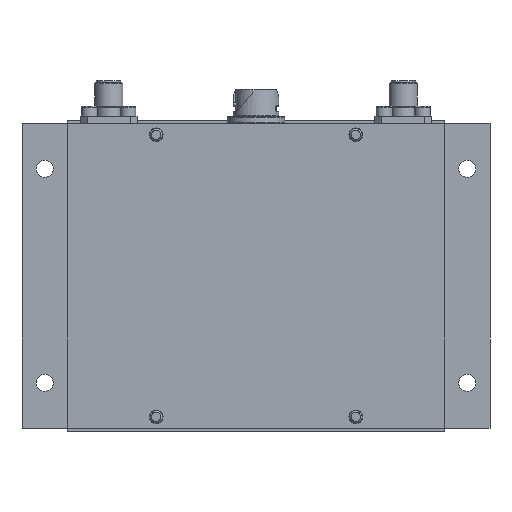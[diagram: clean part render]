
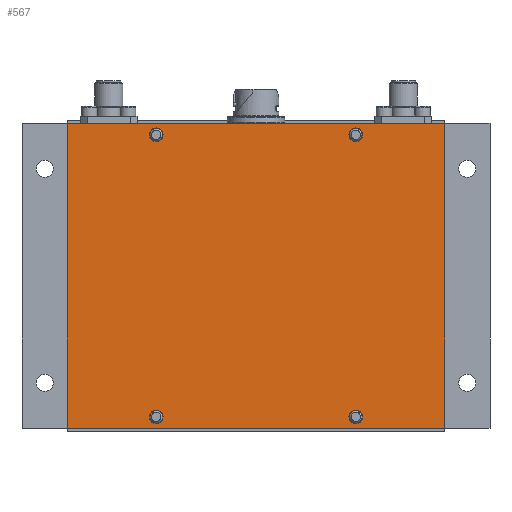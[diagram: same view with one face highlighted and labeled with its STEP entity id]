
A CAD part, front view. The second image highlights one B-rep face of the part: STEP entity #567.
In plain terms, the highlighted planar face has unit normal (0, -1, 0).
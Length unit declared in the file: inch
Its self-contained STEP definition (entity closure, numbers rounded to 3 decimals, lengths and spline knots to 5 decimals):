
#280=CARTESIAN_POINT('',(0.82,0.0,1.245));
#281=VERTEX_POINT('',#280);
#282=CARTESIAN_POINT('',(0.88,0.0,1.245));
#283=DIRECTION('',(0.0,1.0,0.0));
#284=DIRECTION('',(1.0,0.0,0.0));
#285=AXIS2_PLACEMENT_3D('',#282,#283,#284);
#286=CIRCLE('',#285,0.06);
#287=EDGE_CURVE('',#281,#281,#286,.T.);
#308=CARTESIAN_POINT('',(-0.94,0.0,-1.245));
#309=VERTEX_POINT('',#308);
#310=CARTESIAN_POINT('',(-0.88,0.0,-1.245));
#311=DIRECTION('',(0.0,1.0,0.0));
#312=DIRECTION('',(1.0,0.0,0.0));
#313=AXIS2_PLACEMENT_3D('',#310,#311,#312);
#314=CIRCLE('',#313,0.06);
#315=EDGE_CURVE('',#309,#309,#314,.T.);
#336=CARTESIAN_POINT('',(0.82,0.0,-1.245));
#337=VERTEX_POINT('',#336);
#338=CARTESIAN_POINT('',(0.88,0.0,-1.245));
#339=DIRECTION('',(0.0,1.0,0.0));
#340=DIRECTION('',(1.0,0.0,0.0));
#341=AXIS2_PLACEMENT_3D('',#338,#339,#340);
#342=CIRCLE('',#341,0.06);
#343=EDGE_CURVE('',#337,#337,#342,.T.);
#364=CARTESIAN_POINT('',(-0.94,0.0,1.245));
#365=VERTEX_POINT('',#364);
#366=CARTESIAN_POINT('',(-0.88,0.0,1.245));
#367=DIRECTION('',(0.0,1.0,0.0));
#368=DIRECTION('',(1.0,0.0,0.0));
#369=AXIS2_PLACEMENT_3D('',#366,#367,#368);
#370=CIRCLE('',#369,0.06);
#371=EDGE_CURVE('',#365,#365,#370,.T.);
#392=CARTESIAN_POINT('',(-1.665,0.0,1.345));
#393=VERTEX_POINT('',#392);
#394=CARTESIAN_POINT('',(-1.665,0.0,-1.345));
#395=VERTEX_POINT('',#394);
#396=CARTESIAN_POINT('',(-1.665,0.0,1.345));
#397=DIRECTION('',(0.0,0.0,-1.0));
#398=VECTOR('',#397,2.69);
#399=LINE('',#396,#398);
#400=EDGE_CURVE('',#393,#395,#399,.T.);
#432=CARTESIAN_POINT('',(1.665,0.0,-1.345));
#433=VERTEX_POINT('',#432);
#434=CARTESIAN_POINT('',(-1.665,0.0,-1.345));
#435=DIRECTION('',(1.0,0.0,0.0));
#436=VECTOR('',#435,3.33);
#437=LINE('',#434,#436);
#438=EDGE_CURVE('',#395,#433,#437,.T.);
#463=CARTESIAN_POINT('',(1.665,0.0,1.345));
#464=VERTEX_POINT('',#463);
#465=CARTESIAN_POINT('',(1.665,0.0,-1.345));
#466=DIRECTION('',(0.0,0.0,1.0));
#467=VECTOR('',#466,2.69);
#468=LINE('',#465,#467);
#469=EDGE_CURVE('',#433,#464,#468,.T.);
#494=CARTESIAN_POINT('',(1.665,0.0,1.345));
#495=DIRECTION('',(-1.0,0.0,0.0));
#496=VECTOR('',#495,3.33);
#497=LINE('',#494,#496);
#498=EDGE_CURVE('',#464,#393,#497,.T.);
#544=CARTESIAN_POINT('',(0.0,0.0,0.0));
#545=DIRECTION('',(0.0,1.0,0.0));
#546=DIRECTION('',(0.0,0.0,1.0));
#547=AXIS2_PLACEMENT_3D('',#544,#545,#546);
#548=PLANE('',#547);
#549=ORIENTED_EDGE('',*,*,#498,.T.);
#550=ORIENTED_EDGE('',*,*,#400,.T.);
#551=ORIENTED_EDGE('',*,*,#438,.T.);
#552=ORIENTED_EDGE('',*,*,#469,.T.);
#553=EDGE_LOOP('',(#549,#550,#551,#552));
#554=FACE_OUTER_BOUND('',#553,.T.);
#555=ORIENTED_EDGE('',*,*,#287,.T.);
#556=EDGE_LOOP('',(#555));
#557=FACE_BOUND('',#556,.T.);
#558=ORIENTED_EDGE('',*,*,#315,.T.);
#559=EDGE_LOOP('',(#558));
#560=FACE_BOUND('',#559,.T.);
#561=ORIENTED_EDGE('',*,*,#343,.T.);
#562=EDGE_LOOP('',(#561));
#563=FACE_BOUND('',#562,.T.);
#564=ORIENTED_EDGE('',*,*,#371,.T.);
#565=EDGE_LOOP('',(#564));
#566=FACE_BOUND('',#565,.T.);
#567=ADVANCED_FACE('',(#554,#557,#560,#563,#566),#548,.F.);
